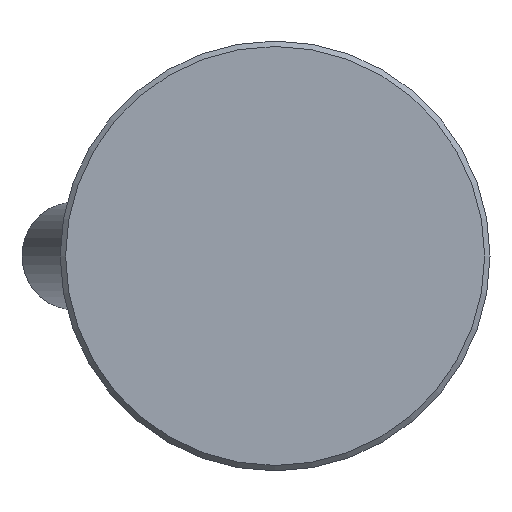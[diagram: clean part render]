
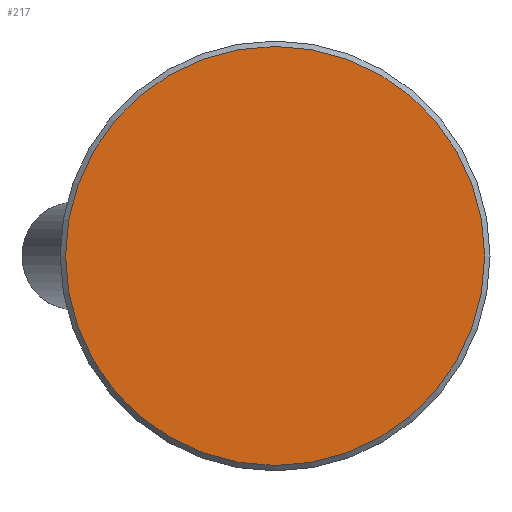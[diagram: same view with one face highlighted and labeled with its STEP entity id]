
A CAD part, front view. The second image highlights one B-rep face of the part: STEP entity #217.
In plain terms, the highlighted planar face has unit normal (0, -1, 0).
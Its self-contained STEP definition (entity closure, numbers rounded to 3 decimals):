
#217 = ADVANCED_FACE( '', ( #414 ), #415, .F. );
#414 = FACE_OUTER_BOUND( '', #596, .T. );
#415 = PLANE( '', #597 );
#596 = EDGE_LOOP( '', ( #939 ) );
#597 = AXIS2_PLACEMENT_3D( '', #940, #941, #942 );
#939 = ORIENTED_EDGE( '', *, *, #1068, .T. );
#940 = CARTESIAN_POINT( '', ( 19.5, 0., 0. ) );
#941 = DIRECTION( '', ( 0., 1., 0. ) );
#942 = DIRECTION( '', ( 0., 0., 1. ) );
#1068 = EDGE_CURVE( '', #1245, #1245, #1246, .T. );
#1245 = VERTEX_POINT( '', #1581 );
#1246 = CIRCLE( '', #1582, 19.5 );
#1581 = CARTESIAN_POINT( '', ( 0., 0., -19.5 ) );
#1582 = AXIS2_PLACEMENT_3D( '', #1881, #1882, #1883 );
#1881 = CARTESIAN_POINT( '', ( 0., 0., 0. ) );
#1882 = DIRECTION( '', ( 0., -1., 0. ) );
#1883 = DIRECTION( '', ( 0., 0., -1. ) );
